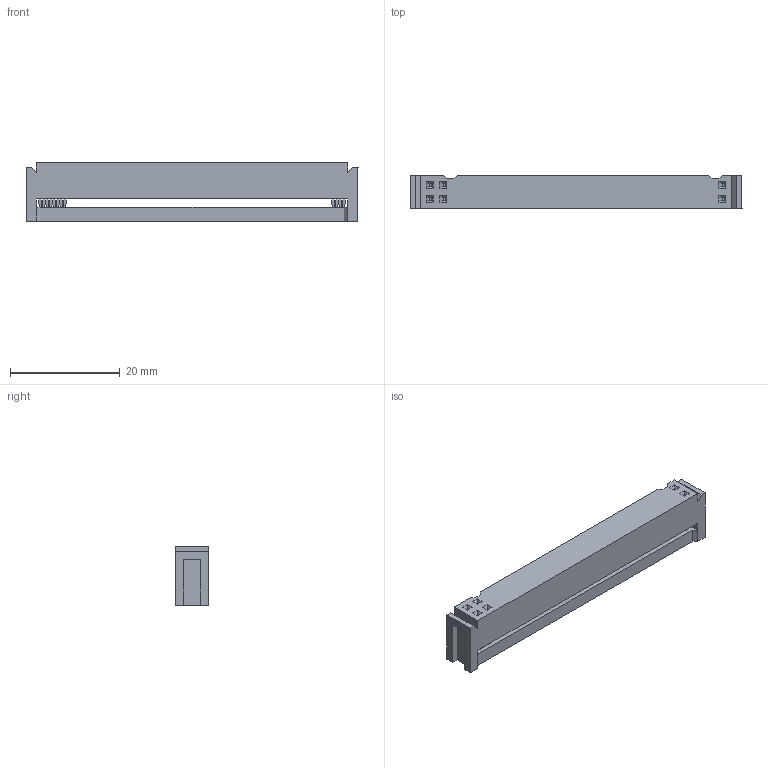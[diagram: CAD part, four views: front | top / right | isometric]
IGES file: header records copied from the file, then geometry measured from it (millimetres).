
Start section: Comment
Global section: file name: 89144-0001_se.igs; native system:  By Spatial Corp. IGES DAT; preprocessor: XIGES V1.0; author: Author; organization: Title; date: 20060130.150123; units: metre
Bounding box: 60.45 x 6.1 x 10.67 mm (x, y, z)
Surface area: 2732.4 mm2 (no closed solid volume)
Topology: 0 solids, 0 shells, 143 faces, 790 edges, 790 vertices
Faces by surface type: extrusion 143
